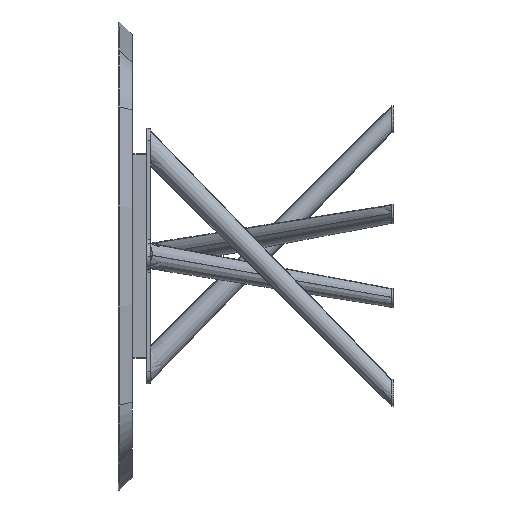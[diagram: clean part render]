
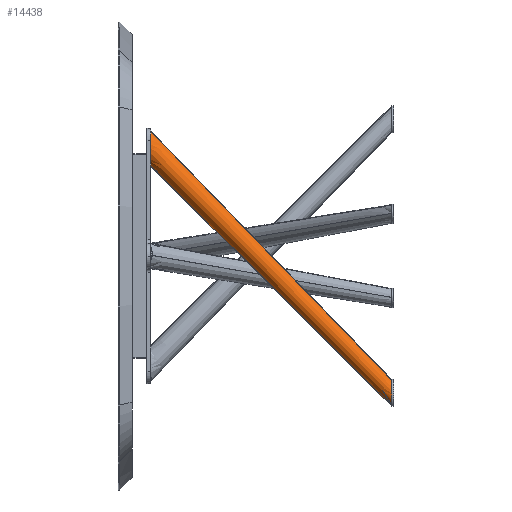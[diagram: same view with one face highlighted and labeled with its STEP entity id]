
A CAD part, left-side view. The second image highlights one B-rep face of the part: STEP entity #14438.
In plain terms, the highlighted conical face has half-angle 0.573 degrees and reference radius 25 mm.
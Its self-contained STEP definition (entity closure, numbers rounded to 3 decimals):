
#352 = EDGE_CURVE ( 'NONE', #4433, #4555, #14077, .T. ) ;
#1219 = CARTESIAN_POINT ( 'NONE',  ( -164.026, 0., -342.116 ) ) ;
#1359 = EDGE_CURVE ( 'NONE', #10187, #4555, #6601, .T. ) ;
#1366 = DIRECTION ( 'NONE',  ( 0.122, 0.704, 0.699 ) ) ;
#1389 = CARTESIAN_POINT ( 'NONE',  ( -14.298, 660., 336.819 ) ) ;
#1509 = CARTESIAN_POINT ( 'NONE',  ( -167.673, 0., -413.666 ) ) ;
#1703 = VECTOR ( 'NONE', #8370, 1000. ) ;
#1908 = CARTESIAN_POINT ( 'NONE',  ( 3.462, 679.882, 314.141 ) ) ;
#2634 = LINE ( 'NONE', #11510, #1703 ) ;
#3017 = VERTEX_POINT ( 'NONE', #14079 ) ;
#3092 = ORIENTED_EDGE ( 'NONE', *, *, #352, .T. ) ;
#3107 = EDGE_CURVE ( 'NONE', #6535, #4433, #8576, .T. ) ;
#3718 = CARTESIAN_POINT ( 'NONE',  ( -56.207, 660., 303.559 ) ) ;
#3760 = DIRECTION ( 'NONE',  ( 0.051, 0.706, -0.706 ) ) ;
#4262 = CARTESIAN_POINT ( 'NONE',  ( -2.49, 660., 245.144 ) ) ;
#4433 = VERTEX_POINT ( 'NONE', #1389 ) ;
#4555 = VERTEX_POINT ( 'NONE', #4984 ) ;
#4704 = ORIENTED_EDGE ( 'NONE', *, *, #3107, .T. ) ;
#4836 = CARTESIAN_POINT ( 'NONE',  ( -14.298, 660., 336.819 ) ) ;
#4984 = CARTESIAN_POINT ( 'NONE',  ( -2.49, 660., 245.144 ) ) ;
#5500 = CARTESIAN_POINT ( 'NONE',  ( 1.693, 655.157, 338.851 ) ) ;
#6088 = CONICAL_SURFACE ( 'NONE', #7952, 25., 0.01 ) ;
#6235 = AXIS2_PLACEMENT_3D ( 'NONE', #1908, #11062, #12089 ) ;
#6535 = VERTEX_POINT ( 'NONE', #5500 ) ;
#6601 = LINE ( 'NONE', #11056, #6886 ) ;
#6886 = VECTOR ( 'NONE', #1366, 1000. ) ;
#6890 =( BOUNDED_CURVE ( )  B_SPLINE_CURVE ( 3, ( #12582, #1219, #1509, #7016 ),
 .UNSPECIFIED., .F., .T. ) 
 B_SPLINE_CURVE_WITH_KNOTS ( ( 4, 4 ),
 ( 0.172, 3.31 ),
 .UNSPECIFIED. ) 
 CURVE ( )  GEOMETRIC_REPRESENTATION_ITEM ( )  RATIONAL_B_SPLINE_CURVE ( ( 1., 0.334, 0.334, 1. ) ) 
 REPRESENTATION_ITEM ( '' )  );
#7016 = CARTESIAN_POINT ( 'NONE',  ( -116.725, 0., -410.142 ) ) ;
#7900 = ORIENTED_EDGE ( 'NONE', *, *, #1359, .F. ) ;
#7941 = EDGE_CURVE ( 'NONE', #3017, #6535, #2634, .T. ) ;
#7952 = AXIS2_PLACEMENT_3D ( 'NONE', #7957, #11390, #3760 ) ;
#7957 = CARTESIAN_POINT ( 'NONE',  ( -117.949, -17.433, -392.267 ) ) ;
#8033 = ORIENTED_EDGE ( 'NONE', *, *, #8138, .F. ) ;
#8138 = EDGE_CURVE ( 'NONE', #3017, #10187, #6890, .T. ) ;
#8370 = DIRECTION ( 'NONE',  ( 0.121, 0.69, 0.713 ) ) ;
#8576 = CIRCLE ( 'NONE', #6235, 35. ) ;
#8990 = EDGE_LOOP ( 'NONE', ( #8033, #13349, #4704, #3092, #7900 ) ) ;
#9756 = CARTESIAN_POINT ( 'NONE',  ( -116.725, 0., -410.142 ) ) ;
#10187 = VERTEX_POINT ( 'NONE', #9756 ) ;
#11056 = CARTESIAN_POINT ( 'NONE',  ( -116.685, 0.227, -409.917 ) ) ;
#11062 = DIRECTION ( 'NONE',  ( -0.121, -0.697, -0.706 ) ) ;
#11390 = DIRECTION ( 'NONE',  ( 0.121, 0.697, 0.706 ) ) ;
#11510 = CARTESIAN_POINT ( 'NONE',  ( -119.212, -35.093, -374.617 ) ) ;
#12089 = DIRECTION ( 'NONE',  ( -0.051, -0.706, 0.706 ) ) ;
#12582 = CARTESIAN_POINT ( 'NONE',  ( -113.065, 0., -338.343 ) ) ;
#13349 = ORIENTED_EDGE ( 'NONE', *, *, #7941, .T. ) ;
#13765 = CARTESIAN_POINT ( 'NONE',  ( -48.275, 660., 241.977 ) ) ;
#13808 = FACE_OUTER_BOUND ( 'NONE', #8990, .T. ) ;
#14077 =( BOUNDED_CURVE ( )  B_SPLINE_CURVE ( 3, ( #4836, #3718, #13765, #4262 ),
 .UNSPECIFIED., .F., .T. ) 
 B_SPLINE_CURVE_WITH_KNOTS ( ( 4, 4 ),
 ( 0.662, 3.31 ),
 .UNSPECIFIED. ) 
 CURVE ( )  GEOMETRIC_REPRESENTATION_ITEM ( )  RATIONAL_B_SPLINE_CURVE ( ( 1., 0.496, 0.496, 1. ) ) 
 REPRESENTATION_ITEM ( '' )  );
#14079 = CARTESIAN_POINT ( 'NONE',  ( -113.065, 0., -338.343 ) ) ;
#14438 = ADVANCED_FACE ( 'NONE', ( #13808 ), #6088, .T. ) ;
